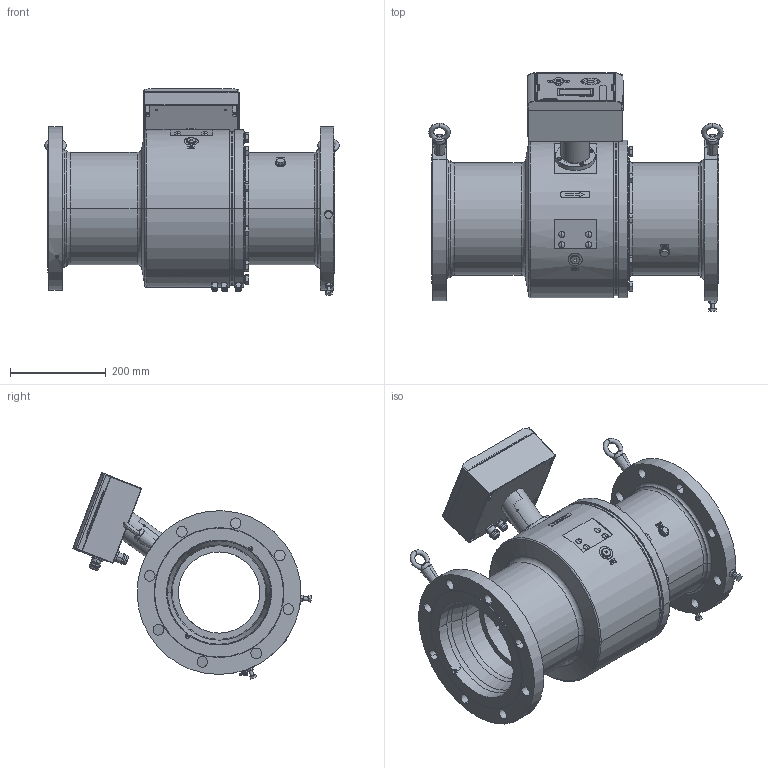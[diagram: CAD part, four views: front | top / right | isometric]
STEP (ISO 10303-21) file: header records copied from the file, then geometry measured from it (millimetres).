
FILE_DESCRIPTION((''),'2;1');
FILE_NAME('STANDARD_SW0001_A150_RE','2023-09-18T12:01:45',('R85801'),(''),'CREO PARAMETRIC BY PTC INC, 2022281','CREO PARAMETRIC BY PTC INC, 2022281','');
FILE_SCHEMA(('AP242_MANAGED_MODEL_BASED_3D_ENGINEERING_MIM_LF { 1 0 10303 442 1 1 4 }'));
Products named in the file (2): STANDARD_SW0001_A150_RE; 10038_S235JRG2
Bounding box: 616.47 x 499.7 x 432.47 mm (x, y, z)
Volume: 19002230.2 mm3; surface area: 1740785.6 mm2
Topology: 12 solids, 21 shells, 3826 faces, 9677 edges, 6180 vertices
Faces by surface type: plane 1891, extrusion 632, cylinder 619, cone 388, torus 244, sphere 40, bspline 12
Entity records: 183415 total; most frequent: CARTESIAN_POINT 29710, ORIENTED_EDGE 19258, DIRECTION 17423, PRESENTATION_STYLE_ASSIGNMENT 14068, STYLED_ITEM 10278, CURVE_STYLE 10265, EDGE_CURVE 9629, VECTOR 6477
